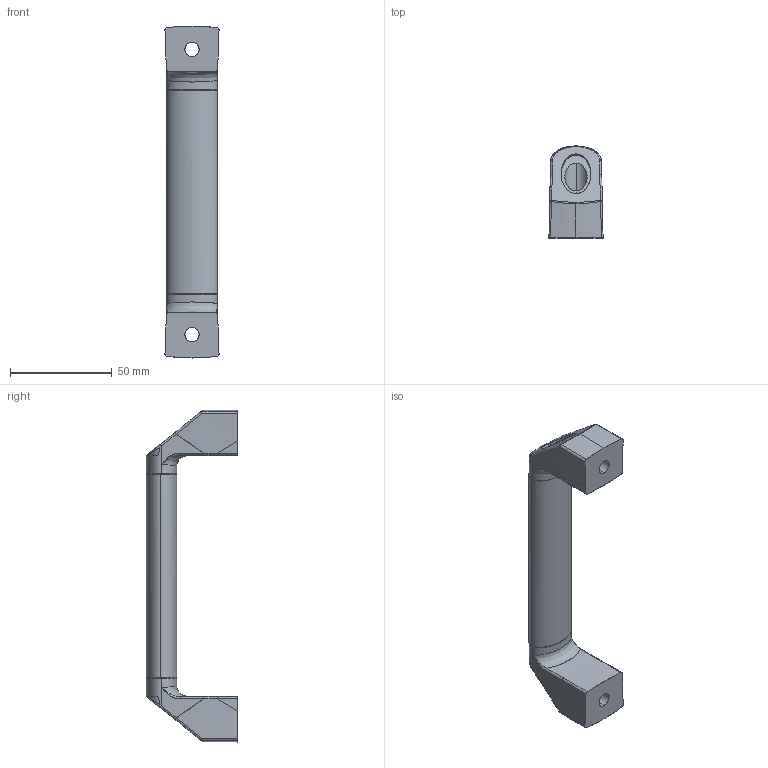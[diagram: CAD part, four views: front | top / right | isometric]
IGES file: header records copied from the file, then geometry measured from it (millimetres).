
Start section: SolidWorks IGES file using analytic representation for surfaces
Global section: file name: D:\由鑫國際內部資料\內部資料\3D圖檔\MS-737-1-D\MS-737-1-D\P=140.IGS,15HSolidWorks; native system: 2008; preprocessor: SolidWorks 2008; author: Administrator; date: 091027.155303; units: millimetre
Bounding box: 26.56 x 45 x 163 mm (x, y, z)
Surface area: 24140.8 mm2 (no closed solid volume)
Topology: 0 solids, 0 shells, 125 faces, 1972 edges, 1968 vertices
Faces by surface type: bspline 82, revolution 43
